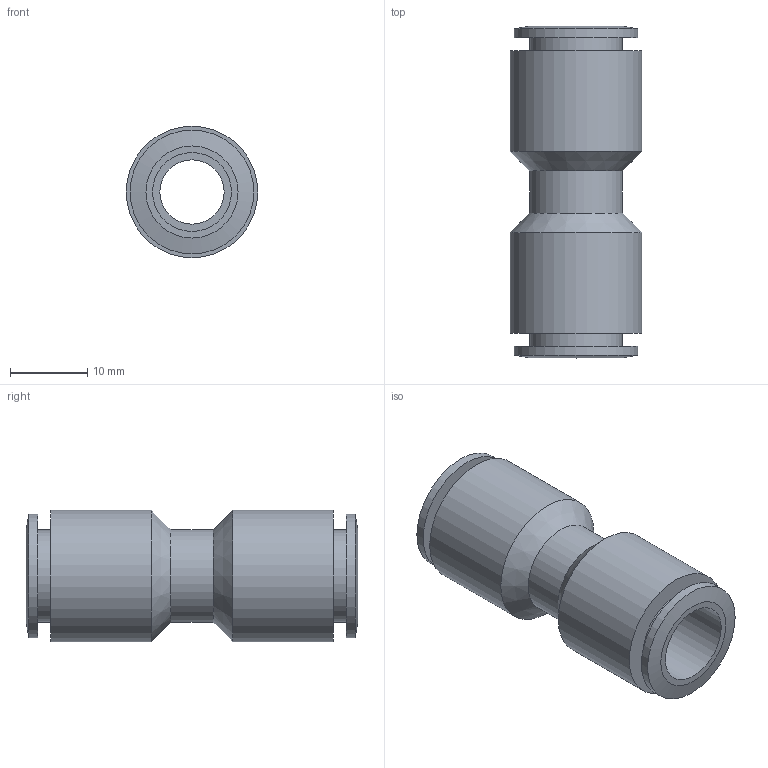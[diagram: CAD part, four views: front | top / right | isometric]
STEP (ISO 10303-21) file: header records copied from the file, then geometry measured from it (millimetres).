
FILE_DESCRIPTION((''),'2;1');
FILE_NAME('C:\Documents and Settings\rivolro1\Documenti\copia di Raccordi\PLASTICA\T03XX00\T031000.stp','2007-10-30T15:29:08',('Rivolro1'),(''),'Autodesk Inventor 2008','Autodesk Inventor 2008','');
FILE_SCHEMA(('AUTOMOTIVE_DESIGN { 1 0 10303 214 1 1 1 1 }'));
Length unit declared in the file: millimetre
Products named in the file (1): T031000
Bounding box: 17 x 42.9 x 17 mm (x, y, z)
Volume: 4928.8 mm3; surface area: 4213.8 mm2
Topology: 1 solids, 1 shells, 22 faces, 37 edges, 23 vertices
Faces by surface type: cylinder 8, plane 6, bspline 4, cone 4
Full cylindrical faces by diameter (mm): 8.3 x1, 11.9 x2, 12 x1, 16 x2, 17 x2
Entity records: 523 total; most frequent: CARTESIAN_POINT 107, DIRECTION 82, ORIENTED_EDGE 44, EDGE_LOOP 44, AXIS2_PLACEMENT_3D 41, VERTEX_POINT 22, CIRCLE 22, EDGE_CURVE 22
